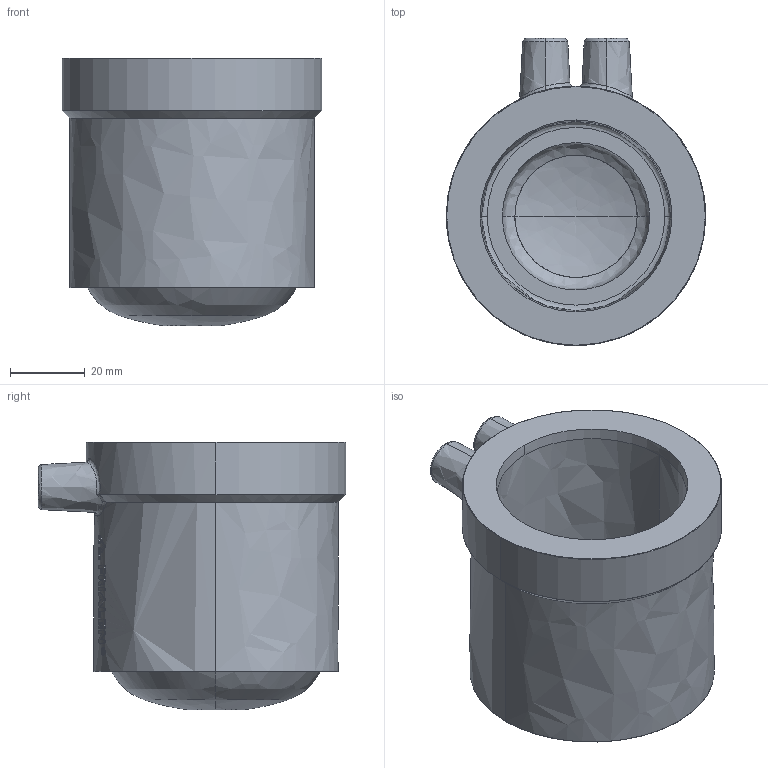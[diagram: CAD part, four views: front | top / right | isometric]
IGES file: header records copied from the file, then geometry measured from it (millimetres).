
Start section:  PTC IGES file: kappe_k_d050_01.igs
Global section: file name: kappe_k_d050_01.igs; native system: Creo Parametric by PTC Inc.; preprocessor: 2019030; author: mikulicp; organization: Unknown; date: 20211025.134224; units: millimetre
Bounding box: 69.5 x 82.35 x 71.64 mm (x, y, z)
Surface area: 30998.5 mm2 (no closed solid volume)
Topology: 0 solids, 0 shells, 181 faces, 926 edges, 924 vertices
Faces by surface type: bspline 181
